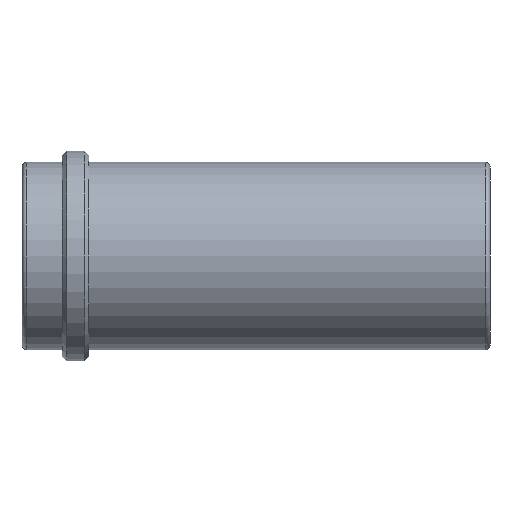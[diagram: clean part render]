
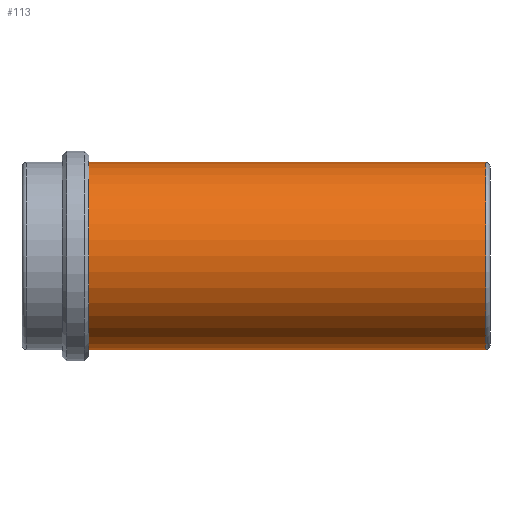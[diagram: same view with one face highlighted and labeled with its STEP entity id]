
A CAD part, front view. The second image highlights one B-rep face of the part: STEP entity #113.
In plain terms, the highlighted cylindrical face has radius 21 mm (diameter 42 mm), a partial arc.
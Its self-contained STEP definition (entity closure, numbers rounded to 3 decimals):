
#8 = DIRECTION ( 'NONE',  ( 0., 0., 1. ) ) ;
#13 = AXIS2_PLACEMENT_3D ( 'NONE', #185, #365, #202 ) ;
#34 = AXIS2_PLACEMENT_3D ( 'NONE', #464, #345, #8 ) ;
#54 = CARTESIAN_POINT ( 'NONE',  ( 104., 0., 21. ) ) ;
#69 = CARTESIAN_POINT ( 'NONE',  ( 0., 0., 21. ) ) ;
#78 = VERTEX_POINT ( 'NONE', #54 ) ;
#100 = EDGE_CURVE ( 'NONE', #78, #325, #354, .T. ) ;
#105 = ORIENTED_EDGE ( 'NONE', *, *, #465, .F. ) ;
#113 = ADVANCED_FACE ( 'NONE', ( #297 ), #357, .T. ) ;
#123 = CARTESIAN_POINT ( 'NONE',  ( 0., 0., 0. ) ) ;
#125 = DIRECTION ( 'NONE',  ( 0., 0., 1. ) ) ;
#149 = DIRECTION ( 'NONE',  ( -1., 0., 0. ) ) ;
#166 = VECTOR ( 'NONE', #268, 1000. ) ;
#172 = EDGE_LOOP ( 'NONE', ( #105, #310, #258, #259 ) ) ;
#179 = CARTESIAN_POINT ( 'NONE',  ( 15., 0., 21. ) ) ;
#185 = CARTESIAN_POINT ( 'NONE',  ( 15., 0., 0. ) ) ;
#197 = CIRCLE ( 'NONE', #34, 21. ) ;
#202 = DIRECTION ( 'NONE',  ( 0., 0., 1. ) ) ;
#219 = DIRECTION ( 'NONE',  ( -1., 0., 0. ) ) ;
#233 = CARTESIAN_POINT ( 'NONE',  ( 15., 0., -21. ) ) ;
#258 = ORIENTED_EDGE ( 'NONE', *, *, #100, .T. ) ;
#259 = ORIENTED_EDGE ( 'NONE', *, *, #361, .F. ) ;
#268 = DIRECTION ( 'NONE',  ( -1., 0., 0. ) ) ;
#297 = FACE_OUTER_BOUND ( 'NONE', #172, .T. ) ;
#310 = ORIENTED_EDGE ( 'NONE', *, *, #377, .T. ) ;
#325 = VERTEX_POINT ( 'NONE', #179 ) ;
#332 = LINE ( 'NONE', #422, #166 ) ;
#341 = VECTOR ( 'NONE', #219, 1000. ) ;
#345 = DIRECTION ( 'NONE',  ( -1., 0., 0. ) ) ;
#354 = LINE ( 'NONE', #69, #341 ) ;
#357 = CYLINDRICAL_SURFACE ( 'NONE', #542, 21. ) ;
#361 = EDGE_CURVE ( 'NONE', #489, #325, #485, .T. ) ;
#365 = DIRECTION ( 'NONE',  ( -1., 0., 0. ) ) ;
#377 = EDGE_CURVE ( 'NONE', #543, #78, #197, .T. ) ;
#422 = CARTESIAN_POINT ( 'NONE',  ( 0., 0., -21. ) ) ;
#464 = CARTESIAN_POINT ( 'NONE',  ( 104., 0., 0. ) ) ;
#465 = EDGE_CURVE ( 'NONE', #543, #489, #332, .T. ) ;
#485 = CIRCLE ( 'NONE', #13, 21. ) ;
#489 = VERTEX_POINT ( 'NONE', #233 ) ;
#533 = CARTESIAN_POINT ( 'NONE',  ( 104., 0., -21. ) ) ;
#542 = AXIS2_PLACEMENT_3D ( 'NONE', #123, #149, #125 ) ;
#543 = VERTEX_POINT ( 'NONE', #533 ) ;
